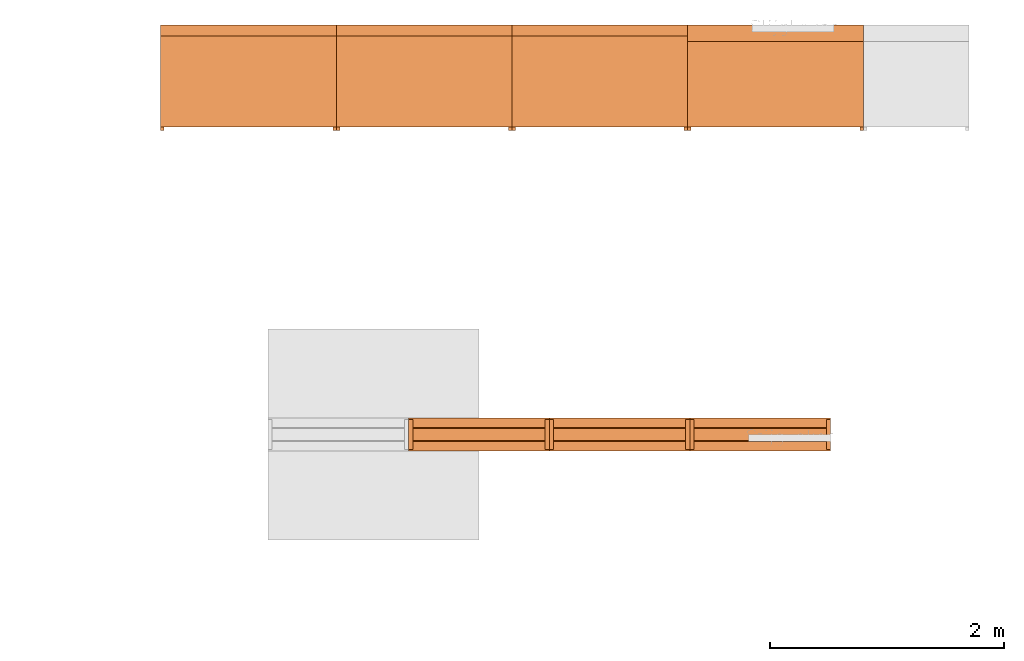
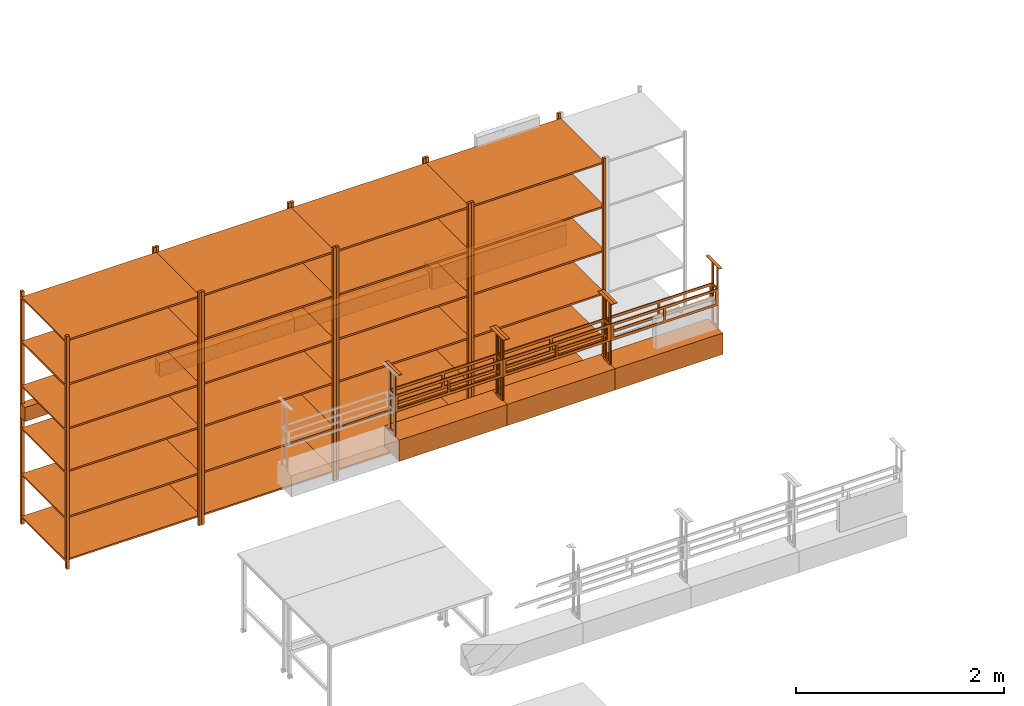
# One storey, part 14 of 32: 11 proxies.
"""IFC2X3 building model written with IfcOpenShell, lengths in metres."""

import ifcopenshell
import ifcopenshell.guid

model = None  # the IFC model being written
_history = None  # IfcOwnerHistory: only IFC2X3 demands one
_inside = {}  # id of a spatial element -> (the spatial element, [elements in it])
_under = {}  # id of a project, library or spatial element -> (it, [spatial elements below it])
_declared = {}  # id of a project -> (the project, [libraries it declares])
_typed = {}  # id of a type object -> (the type object, [elements of that type])
_made_of = {}  # id of a material, layer set ... -> (it, [elements and type objects made of it])


def new_model(schema):
    """Start an empty IFC model of exactly this schema.

    Asked for "IFC4X3", IfcOpenShell would pick the latest addendum, in which some entities
    have other attributes; the version numbers below select the first issue.
    IFC2X3 requires an IfcOwnerHistory on every rooted entity: one is made here for all.
    """
    global model, _history
    if schema == "IFC4X3":
        model = ifcopenshell.file(schema_version=(4, 3, 0, 0))
    else:
        model = ifcopenshell.file(schema=schema)
    _inside.clear()
    _under.clear()
    _declared.clear()
    _typed.clear()
    _made_of.clear()
    _history = None
    if model.schema == "IFC2X3":
        org = make("IfcOrganization", Name="unknown")
        user = make(
            "IfcPersonAndOrganization",
            ThePerson=make("IfcPerson", FamilyName="unknown"),
            TheOrganization=org,
        )
        app = make(
            "IfcApplication",
            ApplicationDeveloper=org,
            Version="unknown",
            ApplicationFullName="unknown",
            ApplicationIdentifier="unknown",
        )
        _history = make(
            "IfcOwnerHistory",
            OwningUser=user,
            OwningApplication=app,
            ChangeAction="ADDED",
            CreationDate=0,
        )
    return model


def make(cls, **values):
    """One entity of the class cls with the attributes given. An attribute that is None is left unset."""
    return model.create_entity(
        cls, **{name: value for name, value in values.items() if value is not None}
    )


def entity(cls, *values):
    """Any entity or typed value of the class cls, its attributes in the order of the schema. None: left unset."""
    e = model.create_entity(cls)
    for i, value in enumerate(values):
        if value is not None:
            e[i] = value
    return e


def rooted(cls, **values):
    """An entity with a GlobalId (a new one), such as an element, a storey or a relation."""
    return make(cls, GlobalId=ifcopenshell.guid.new(), OwnerHistory=_history, **values)


def si_unit(unit_type, name, prefix=None):
    """IfcSIUnit, for example si_unit("LENGTHUNIT", "METRE", prefix="MILLI")."""
    return make("IfcSIUnit", UnitType=unit_type, Prefix=prefix, Name=name)


def converted_unit(unit_type, name, factor, base, dimensions=None, offset=None):
    """IfcConversionBasedUnit, such as the inch: factor (a typed value) times the base unit."""
    return make(
        "IfcConversionBasedUnit"
        if offset is None
        else "IfcConversionBasedUnitWithOffset",
        ConversionOffset=offset,
        Dimensions=None
        if dimensions is None
        else entity("IfcDimensionalExponents", *dimensions),
        UnitType=unit_type,
        Name=name,
        ConversionFactor=make(
            "IfcMeasureWithUnit", ValueComponent=factor, UnitComponent=base
        ),
    )


def derived_unit(unit_type, elements):
    """IfcDerivedUnit: a product of units, each with its exponent."""
    return make(
        "IfcDerivedUnit",
        Elements=[
            make("IfcDerivedUnitElement", Unit=unit, Exponent=power)
            for unit, power in elements
        ],
        UnitType=unit_type,
    )


def assignment(units):
    """IfcUnitAssignment: the units of a project."""
    return None if units is None else make("IfcUnitAssignment", Units=units)


def point(xyz):
    """IfcCartesianPoint."""
    return None if xyz is None else make("IfcCartesianPoint", Coordinates=xyz)


def direction(xyz):
    """IfcDirection."""
    return None if xyz is None else make("IfcDirection", DirectionRatios=xyz)


def frame(location, z_axis=None, x_axis=None):
    """IfcAxis2Placement3D, a coordinate frame: its origin and axes. An axis left out is left unset."""
    return make(
        "IfcAxis2Placement3D",
        Location=point(location),
        Axis=direction(z_axis),
        RefDirection=direction(x_axis),
    )


def frame_2d(location, x_axis=None):
    """IfcAxis2Placement2D, a coordinate frame in the plane: its origin and x axis."""
    return make(
        "IfcAxis2Placement2D", Location=point(location), RefDirection=direction(x_axis)
    )


def origin():
    """The frame at (0, 0, 0) with its axes left unset."""
    return frame((0.0, 0.0, 0.0))


def origin_2d_with_axis():
    """The frame at (0, 0) in the plane with the x axis (1, 0) written out."""
    return frame_2d((0.0, 0.0), x_axis=(1.0, 0.0))


def place(relative_to, where):
    """IfcLocalPlacement: puts the frame where relative to a parent placement (None: the world)."""
    return make(
        "IfcLocalPlacement", PlacementRelTo=relative_to, RelativePlacement=where
    )


def context(
    kind, dimensions, precision=None, world=None, true_north=None, identifier=None
):
    """IfcGeometricRepresentationContext, for example the 3D "Model" context."""
    return make(
        "IfcGeometricRepresentationContext",
        ContextIdentifier=identifier,
        ContextType=kind,
        CoordinateSpaceDimension=dimensions,
        Precision=precision,
        WorldCoordinateSystem=world,
        TrueNorth=true_north,
    )


def subcontext(parent, identifier, kind, view, scale=None):
    """IfcGeometricRepresentationSubContext, for example "Body" below "Model"."""
    return make(
        "IfcGeometricRepresentationSubContext",
        ContextIdentifier=identifier,
        ContextType=kind,
        ParentContext=parent,
        TargetScale=scale,
        TargetView=view,
    )


def project(units=None, contexts=None):
    """IfcProject with its units and contexts."""
    return rooted(
        "IfcProject",
        Name="project",
        RepresentationContexts=contexts,
        UnitsInContext=assignment(units),
    )


def spatial(cls, under=None, at=None, **own):
    """A site, building, storey or space (cls), placed at a placement, below another one or the project."""
    s = rooted(cls, ObjectPlacement=at, **own)
    if under is not None:
        _under.setdefault(under.id(), (under, []))[1].append(s)
    return s


def profile(cls, at=None, kind="AREA", **sizes):
    """A parametric profile (cls). Its sizes go by their IFC names, for example OverallWidth=200.0."""
    return make(cls, ProfileType=kind, Position=at, **sizes)


def rectangle(**sizes):
    """IfcRectangleProfileDef."""
    return profile("IfcRectangleProfileDef", **sizes)


def extrude(swept, where, along, depth):
    """IfcExtrudedAreaSolid: the profile swept, set in the frame where, extruded along a direction by depth."""
    return make(
        "IfcExtrudedAreaSolid",
        SweptArea=swept,
        Position=where,
        ExtrudedDirection=direction(along),
        Depth=depth,
    )


def faces_of(points, faces, orient=None, outer=None):
    """IfcFace entities. A face is a list of loops; a loop is a list of indices into points, from 0.

    orient and outer hold one flag for each loop. By default every Orientation is true, the
    first loop of a face is its IfcFaceOuterBound and the others are IfcFaceBound.
    """
    made = []
    for i, loops in enumerate(faces):
        bounds = []
        for j, loop in enumerate(loops):
            is_outer = j == 0 if outer is None else outer[i][j]
            bounds.append(
                make(
                    "IfcFaceOuterBound" if is_outer else "IfcFaceBound",
                    Bound=make("IfcPolyLoop", Polygon=[points[k] for k in loop]),
                    Orientation=True if orient is None else orient[i][j],
                )
            )
        made.append(make("IfcFace", Bounds=bounds))
    return made


def faceted_brep(points, faces, orient=None, outer=None, voids=None):
    """IfcFacetedBrep: a solid bounded by flat faces; with voids (closed shells), ...WithVoids."""
    shared = [point(p) for p in points]
    hull = make("IfcClosedShell", CfsFaces=faces_of(shared, faces, orient, outer))
    if voids is None:
        return make("IfcFacetedBrep", Outer=hull)
    return make(
        "IfcFacetedBrepWithVoids",
        Outer=hull,
        Voids=[
            make(cls, CfsFaces=faces_of(shared, fs, o, b)) for cls, fs, o, b in voids
        ],
    )


def shape(context_of_items, identifier, shape_type, items):
    """IfcShapeRepresentation: the items that make up one representation, for example the "Body"."""
    return make(
        "IfcShapeRepresentation",
        ContextOfItems=context_of_items,
        RepresentationIdentifier=identifier,
        RepresentationType=shape_type,
        Items=items,
    )


def source(mapping_origin, context_of_items, identifier, shape_type, items):
    """IfcRepresentationMap: a shape defined once, which mapped items show again and again."""
    return make(
        "IfcRepresentationMap",
        MappingOrigin=mapping_origin,
        MappedRepresentation=shape(context_of_items, identifier, shape_type, items),
    )


def transform(
    local_origin,
    x_axis=None,
    y_axis=None,
    z_axis=None,
    scale=None,
    scale2=None,
    scale3=None,
    uniform=True,
):
    """IfcCartesianTransformationOperator3D, or its non-uniform kind. x_axis, y_axis, z_axis: its Axis1, 2, 3."""
    if uniform:
        return make(
            "IfcCartesianTransformationOperator3D",
            Axis1=direction(x_axis),
            Axis2=direction(y_axis),
            LocalOrigin=point(local_origin),
            Scale=scale,
            Axis3=direction(z_axis),
        )
    return make(
        "IfcCartesianTransformationOperator3DnonUniform",
        Axis1=direction(x_axis),
        Axis2=direction(y_axis),
        LocalOrigin=point(local_origin),
        Scale=scale,
        Axis3=direction(z_axis),
        Scale2=scale2,
        Scale3=scale3,
    )


def mapped(mapping_source, mapping_target):
    """IfcMappedItem: shows the shape of a source again, moved by a transform."""
    return make(
        "IfcMappedItem", MappingSource=mapping_source, MappingTarget=mapping_target
    )


def material(Name=None, Category=None):
    """IfcMaterial."""
    return make("IfcMaterial", Name=Name, Category=Category)


def material_list(materials):
    """IfcMaterialList."""
    return make("IfcMaterialList", Materials=materials)


def made_of(thing, what):
    """Note that an element or type object is made of a material, layer set ...; save() writes the relation."""
    if what is not None:
        _made_of.setdefault(what.id(), (what, []))[1].append(thing)
    return thing


def type_object(cls, material=None, **own):
    """A type object (cls), such as IfcWallType, which elements share."""
    return made_of(rooted(cls, **own), material)


def type_shapes(of_type, sources):
    """Give a type object the sources (RepresentationMaps) that its elements show as mapped items."""
    of_type.RepresentationMaps = sources


def element(
    cls,
    number,
    at=None,
    inside=None,
    cuts=None,
    type_object=None,
    material=None,
    context=None,
    identifier="Body",
    shape_type=None,
    held_by="IfcProductDefinitionShape",
    body=None,
    shapes=None,
    **own,
):
    """One element of the class cls, such as IfcWall. Its Tag is "e" and its number.

    at: its placement. inside: the storey or other place that contains it. cuts: it is an
    opening in that element (IfcRelVoidsElement). A single representation is given by context,
    identifier, shape_type and body (its items); several are given by shapes. held_by: the class
    of the entity that holds the representations. save() writes the other relations.
    """
    e = rooted(cls, Tag="e%d" % number, ObjectPlacement=at, **own)
    if body is not None:
        shapes = [shape(context, identifier, shape_type, body)]
    if shapes is not None:
        e.Representation = make(held_by, Representations=shapes)
    if inside is not None:
        _inside.setdefault(inside.id(), (inside, []))[1].append(e)
    if cuts is not None:
        rooted(
            "IfcRelVoidsElement", RelatingBuildingElement=cuts, RelatedOpeningElement=e
        )
    if type_object is not None:
        _typed.setdefault(type_object.id(), (type_object, []))[1].append(e)
    return made_of(e, material)


def aggregate(whole, parts):
    """IfcRelAggregates: a whole, such as a stair, and the parts it consists of."""
    return rooted("IfcRelAggregates", RelatingObject=whole, RelatedObjects=parts)


def save(model, path):
    """Write the relations noted so far, then the file.

    IfcRelAggregates (storeys below a building ...), IfcRelContainedInSpatialStructure (elements
    in a storey), IfcRelDefinesByType, IfcRelAssociatesMaterial and IfcRelDeclares: one each for
    every whole, place, type object, material and project.
    """
    for whole, parts in _under.values():
        aggregate(whole, parts)
    for where, things in _inside.values():
        rooted(
            "IfcRelContainedInSpatialStructure",
            RelatedElements=things,
            RelatingStructure=where,
        )
    for kind, things in _typed.values():
        rooted("IfcRelDefinesByType", RelatedObjects=things, RelatingType=kind)
    for what, things in _made_of.values():
        rooted("IfcRelAssociatesMaterial", RelatedObjects=things, RelatingMaterial=what)
    for by, libraries in _declared.values():
        rooted("IfcRelDeclares", RelatingContext=by, RelatedDefinitions=libraries)
    model.write(path)


model = new_model("IFC2X3")

# Units and contexts
model_context = context("Model", 3, precision=1e-05, world=origin(), true_north=direction((6.12303176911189e-17, 1.0)))
body_context = subcontext(model_context, "Body", "Model", "MODEL_VIEW")
ifc_project = project(units=[si_unit("LENGTHUNIT", "METRE"), si_unit("AREAUNIT", "SQUARE_METRE"), si_unit("VOLUMEUNIT", "CUBIC_METRE"), converted_unit("PLANEANGLEUNIT", "DEGREE", entity("IfcRatioMeasure", 0.0174532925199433), si_unit("PLANEANGLEUNIT", "RADIAN"), dimensions=[0, 0, 0, 0, 0, 0, 0]), si_unit("MASSUNIT", "GRAM", prefix="KILO"), derived_unit("MASSDENSITYUNIT", [(si_unit("MASSUNIT", "GRAM", prefix="KILO"), 1), (si_unit("LENGTHUNIT", "METRE"), -3)]), derived_unit("MOMENTOFINERTIAUNIT", [(si_unit("LENGTHUNIT", "METRE"), 4)]), si_unit("TIMEUNIT", "SECOND"), si_unit("FREQUENCYUNIT", "HERTZ"), si_unit("THERMODYNAMICTEMPERATUREUNIT", "DEGREE_CELSIUS"), derived_unit("THERMALTRANSMITTANCEUNIT", [(si_unit("MASSUNIT", "GRAM", prefix="KILO"), 1), (si_unit("THERMODYNAMICTEMPERATUREUNIT", "KELVIN"), -1), (si_unit("TIMEUNIT", "SECOND"), -3)]), derived_unit("VOLUMETRICFLOWRATEUNIT", [(si_unit("LENGTHUNIT", "METRE"), 3), (si_unit("TIMEUNIT", "SECOND"), -1)]), si_unit("ELECTRICCURRENTUNIT", "AMPERE"), si_unit("ELECTRICVOLTAGEUNIT", "VOLT"), si_unit("POWERUNIT", "WATT"), si_unit("FORCEUNIT", "NEWTON", prefix="KILO"), si_unit("ILLUMINANCEUNIT", "LUX"), si_unit("LUMINOUSFLUXUNIT", "LUMEN"), si_unit("LUMINOUSINTENSITYUNIT", "CANDELA"), derived_unit("USERDEFINED", [(si_unit("MASSUNIT", "GRAM", prefix="KILO"), -1), (si_unit("LENGTHUNIT", "METRE"), -2), (si_unit("TIMEUNIT", "SECOND"), 3), (si_unit("LUMINOUSFLUXUNIT", "LUMEN"), 1)]), derived_unit("LINEARVELOCITYUNIT", [(si_unit("LENGTHUNIT", "METRE"), 1), (si_unit("TIMEUNIT", "SECOND"), -1)]), si_unit("PRESSUREUNIT", "PASCAL"), derived_unit("USERDEFINED", [(si_unit("LENGTHUNIT", "METRE"), -2), (si_unit("MASSUNIT", "GRAM", prefix="KILO"), 1), (si_unit("TIMEUNIT", "SECOND"), -2)]), derived_unit("LINEARFORCEUNIT", [(si_unit("MASSUNIT", "GRAM", prefix="KILO"), 1), (si_unit("LENGTHUNIT", "METRE"), 1), (si_unit("TIMEUNIT", "SECOND"), -2), (si_unit("LENGTHUNIT", "METRE"), -1)]), derived_unit("PLANARFORCEUNIT", [(si_unit("MASSUNIT", "GRAM", prefix="KILO"), 1), (si_unit("LENGTHUNIT", "METRE"), 1), (si_unit("TIMEUNIT", "SECOND"), -2), (si_unit("LENGTHUNIT", "METRE"), -2)])], contexts=[model_context])

# Site, building, storey
site_placement = place(None, origin())
site = spatial("IfcSite", under=ifc_project, at=site_placement, Name="Default", CompositionType="ELEMENT")
building_placement = place(site_placement, origin())
building = spatial("IfcBuilding", under=site, at=building_placement, CompositionType="ELEMENT")
storey_placement = place(building_placement, origin())
storey = spatial("IfcBuildingStorey", under=building, at=storey_placement, Name="00 EG", CompositionType="ELEMENT", Elevation=0.0)

# Proxies
ifc_material_1 = material(Name="dh_Weiß")
ifc_material_list_1 = material_list([ifc_material_1, ifc_material_1])
building_element_proxy_type_1 = type_object("IfcBuildingElementProxyType", Name="dh_Doppel_ MEK:DMEK 120", PredefinedType="NOTDEFINED", material=ifc_material_list_1)
shared_shape_1 = source(origin(), body_context, "Body", "Brep", [
    faceted_brep([(0.0100000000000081, 0.2, 1.00500000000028), (0.0100000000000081, 0.0800000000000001, 1.00500000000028), (0.0100000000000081, 0.0800000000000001, 0.727500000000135), (0.0100000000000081, 0.0899999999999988, 0.727500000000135), (0.0100000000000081, 0.0899999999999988, 0.527500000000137), (0.0100000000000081, 0.0800000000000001, 0.527500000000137), (0.0100000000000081, 0.0800000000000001, 0.249999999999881), (0.0100000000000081, 0.2, 0.249999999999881), (0.0100000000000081, 0.2, 0.527500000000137), (0.0100000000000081, 0.189999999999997, 0.527500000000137), (0.0100000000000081, 0.189999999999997, 0.727500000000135), (0.0100000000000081, 0.2, 0.727500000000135), (0.0100000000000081, 0.175, 0.975000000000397), (0.0100000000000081, 0.175, 0.727500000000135), (0.0100000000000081, 0.105, 0.727500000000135), (0.0100000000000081, 0.105, 0.975000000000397), (0.0100000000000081, 0.175, 0.527500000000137), (0.0100000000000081, 0.175, 0.279999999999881), (0.0100000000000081, 0.105, 0.27999999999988), (0.0100000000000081, 0.105, 0.527500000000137), (0.0100000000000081, 0.175000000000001, 0.697500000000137), (0.0100000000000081, 0.175000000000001, 0.557500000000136), (0.0100000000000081, 0.105000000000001, 0.557500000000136), (0.0100000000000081, 0.105000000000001, 0.697500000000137), (0.0, 0.2, 1.00500000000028), (0.0, 0.2, 0.249999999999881), (0.0, 0.0800000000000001, 0.249999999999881), (0.0, 0.0800000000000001, 1.00500000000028), (0.0, 0.175, 0.975000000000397), (0.0, 0.105, 0.975000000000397), (0.0, 0.105, 0.727500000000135), (0.0, 0.175, 0.727500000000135), (0.0, 0.175, 0.527500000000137), (0.0, 0.105, 0.527500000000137), (0.0, 0.105, 0.27999999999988), (0.0, 0.175, 0.279999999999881), (0.0, 0.175000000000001, 0.697500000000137), (0.0, 0.105000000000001, 0.697500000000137), (0.0, 0.105000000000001, 0.557500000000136), (0.0, 0.175000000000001, 0.557500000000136), (1.19000000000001, 0.0800000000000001, 0.527500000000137), (1.19000000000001, 0.0800000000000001, 0.249999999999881), (1.20000000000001, 0.0800000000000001, 0.249999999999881), (1.20000000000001, 0.0800000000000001, 1.00500000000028), (1.19000000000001, 0.0800000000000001, 1.00500000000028), (1.19000000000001, 0.0800000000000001, 0.727500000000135), (0.61250000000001, 0.0800000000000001, 0.697500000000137), (1.16500000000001, 0.0800000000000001, 0.697500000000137), (1.16500000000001, 0.0800000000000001, 0.557500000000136), (0.61250000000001, 0.0800000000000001, 0.557500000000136), (0.0350000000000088, 0.0800000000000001, 0.697500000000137), (0.587500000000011, 0.0800000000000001, 0.697500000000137), (0.587500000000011, 0.0800000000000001, 0.557500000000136), (0.0350000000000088, 0.0800000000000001, 0.557500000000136), (1.19000000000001, 0.2, 0.727500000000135), (1.19000000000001, 0.2, 1.00500000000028), (1.20000000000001, 0.2, 1.00500000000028), (1.20000000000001, 0.2, 0.249999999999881), (1.19000000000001, 0.2, 0.249999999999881), (1.19000000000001, 0.2, 0.527500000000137), (0.0350000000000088, 0.2, 0.697500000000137), (0.0350000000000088, 0.2, 0.557500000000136), (0.587500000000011, 0.2, 0.557500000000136), (0.587500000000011, 0.2, 0.697500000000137), (0.61250000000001, 0.2, 0.697500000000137), (0.61250000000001, 0.2, 0.557500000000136), (1.16500000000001, 0.2, 0.557500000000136), (1.16500000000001, 0.2, 0.697500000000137), (1.19000000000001, 0.0899999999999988, 0.727500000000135), (1.19000000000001, 0.0899999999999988, 0.527500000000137), (0.61250000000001, 0.0899999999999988, 0.697500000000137), (0.61250000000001, 0.0899999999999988, 0.557500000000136), (1.16500000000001, 0.0899999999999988, 0.557500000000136), (1.16500000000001, 0.0899999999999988, 0.697500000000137), (0.0350000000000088, 0.0899999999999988, 0.697500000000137), (0.0350000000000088, 0.0899999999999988, 0.557500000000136), (0.587500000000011, 0.0899999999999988, 0.557500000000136), (0.587500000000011, 0.0899999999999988, 0.697500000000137), (1.19000000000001, 0.189999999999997, 0.527500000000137), (1.19000000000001, 0.189999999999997, 0.727500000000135), (0.0350000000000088, 0.189999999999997, 0.697500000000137), (0.587500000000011, 0.189999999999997, 0.697500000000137), (0.587500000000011, 0.189999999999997, 0.557500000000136), (0.0350000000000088, 0.189999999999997, 0.557500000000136), (0.61250000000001, 0.189999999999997, 0.697500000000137), (1.16500000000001, 0.189999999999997, 0.697500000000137), (1.16500000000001, 0.189999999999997, 0.557500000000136), (0.61250000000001, 0.189999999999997, 0.557500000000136), (1.20000000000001, 0.175, 0.975000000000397), (1.20000000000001, 0.175, 0.727500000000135), (1.20000000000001, 0.105, 0.727500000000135), (1.20000000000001, 0.105, 0.975000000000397), (1.20000000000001, 0.175000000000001, 0.697500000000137), (1.20000000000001, 0.175000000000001, 0.557500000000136), (1.20000000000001, 0.105000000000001, 0.557500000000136), (1.20000000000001, 0.105000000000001, 0.697500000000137), (1.20000000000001, 0.105, 0.27999999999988), (1.20000000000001, 0.105, 0.527500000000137), (1.20000000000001, 0.175, 0.527500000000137), (1.20000000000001, 0.175, 0.279999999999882), (1.19000000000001, 0.175, 0.975000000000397), (1.19000000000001, 0.105, 0.975000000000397), (1.19000000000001, 0.105, 0.727500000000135), (1.19000000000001, 0.175, 0.727500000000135), (1.19000000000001, 0.175000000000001, 0.697500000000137), (1.19000000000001, 0.105000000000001, 0.697500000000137), (1.19000000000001, 0.105000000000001, 0.557500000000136), (1.19000000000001, 0.175000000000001, 0.557500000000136), (1.19000000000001, 0.105, 0.27999999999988), (1.19000000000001, 0.175, 0.279999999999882), (1.19000000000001, 0.175, 0.527500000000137), (1.19000000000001, 0.105, 0.527500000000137)], [[[0, 1, 2, 3, 4, 5, 6, 7, 8, 9, 10, 11], [12, 13, 14, 15], [16, 17, 18, 19], [20, 21, 22, 23]], [[24, 25, 26, 27], [28, 29, 30, 31], [32, 33, 34, 35], [36, 37, 38, 39]], [[1, 0, 24, 27]], [[27, 26, 6, 5, 40, 41, 42, 43, 44, 45, 2, 1], [46, 47, 48, 49], [50, 51, 52, 53]], [[7, 6, 26, 25]], [[25, 24, 0, 11, 54, 55, 56, 57, 58, 59, 8, 7], [60, 61, 62, 63], [64, 65, 66, 67]], [[13, 12, 28, 31]], [[14, 13, 31, 30]], [[15, 14, 30, 29]], [[12, 15, 29, 28]], [[17, 16, 32, 35]], [[18, 17, 35, 34]], [[19, 18, 34, 33]], [[16, 19, 33, 32]], [[21, 20, 36, 39]], [[22, 21, 39, 38]], [[23, 22, 38, 37]], [[20, 23, 37, 36]], [[3, 68, 69, 4], [70, 71, 72, 73], [74, 75, 76, 77]], [[40, 5, 4, 69]], [[2, 45, 68, 3]], [[47, 46, 70, 73]], [[48, 47, 73, 72]], [[49, 48, 72, 71]], [[46, 49, 71, 70]], [[51, 50, 74, 77]], [[52, 51, 77, 76]], [[53, 52, 76, 75]], [[50, 53, 75, 74]], [[9, 78, 79, 10], [80, 81, 82, 83], [84, 85, 86, 87]], [[78, 9, 8, 59]], [[10, 79, 54, 11]], [[81, 80, 60, 63]], [[82, 81, 63, 62]], [[83, 82, 62, 61]], [[80, 83, 61, 60]], [[85, 84, 64, 67]], [[86, 85, 67, 66]], [[87, 86, 66, 65]], [[84, 87, 65, 64]], [[42, 57, 56, 43], [88, 89, 90, 91], [92, 93, 94, 95], [96, 97, 98, 99]], [[44, 55, 54, 79, 78, 59, 58, 41, 40, 69, 68, 45], [100, 101, 102, 103], [104, 105, 106, 107], [108, 109, 110, 111]], [[57, 42, 41, 58]], [[43, 56, 55, 44]], [[89, 88, 100, 103]], [[90, 89, 103, 102]], [[91, 90, 102, 101]], [[88, 91, 101, 100]], [[93, 92, 104, 107]], [[94, 93, 107, 106]], [[95, 94, 106, 105]], [[92, 95, 105, 104]], [[97, 96, 108, 111]], [[98, 97, 111, 110]], [[99, 98, 110, 109]], [[96, 99, 109, 108]]]),
    faceted_brep([(1.165, 0.00999999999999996, 1.01000000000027), (1.2, 0.00999999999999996, 1.01000000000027), (1.2, 0.27, 1.01000000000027), (1.165, 0.27, 1.01000000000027), (1.165, 0.00999999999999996, 1.00500000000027), (1.2, 0.00999999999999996, 1.00500000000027), (1.2, 0.27, 1.00500000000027), (1.165, 0.27, 1.00500000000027)], [[[0, 1, 2, 3]], [[1, 0, 4, 5]], [[2, 1, 5, 6]], [[3, 2, 6, 7]], [[0, 3, 7, 4]], [[4, 7, 6, 5]]]),
    faceted_brep([(0.0349999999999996, 0.270000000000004, 1.00500000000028), (0.0349999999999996, 0.0100000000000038, 1.00500000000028), (0.0, 0.0100000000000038, 1.00500000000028), (0.0, 0.270000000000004, 1.00500000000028), (0.0, 0.270000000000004, 1.01000000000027), (0.0349999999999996, 0.270000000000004, 1.01000000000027), (0.0, 0.0100000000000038, 1.01000000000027), (0.0349999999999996, 0.0100000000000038, 1.01000000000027)], [[[0, 1, 2, 3]], [[4, 5, 0, 3]], [[6, 4, 3, 2]], [[7, 6, 2, 1]], [[5, 7, 1, 0]], [[5, 4, 6, 7]]]),
    faceted_brep([(0.0, 0.2, 0.249999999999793), (0.0100000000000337, 0.2, 0.249999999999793), (1.19000000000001, 0.2, 0.249999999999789), (1.2, 0.2, 0.249999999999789), (1.2, 0.28, 0.249999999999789), (0.0, 0.28, 0.249999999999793), (0.0, 0.2, 0.244999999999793), (0.0, 0.28, 0.244999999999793), (1.2, 0.28, 0.244999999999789), (1.2, 0.2, 0.244999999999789), (1.19000000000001, 0.2, 0.244999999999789), (0.0100000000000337, 0.2, 0.244999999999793)], [[[0, 1, 2, 3, 4, 5]], [[6, 7, 8, 9, 10, 11]], [[0, 5, 7, 6]], [[5, 4, 8, 7]], [[4, 3, 9, 8]], [[3, 2, 10, 9]], [[2, 1, 11, 10]], [[1, 0, 6, 11]]]),
    faceted_brep([(1.20000000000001, 0.280000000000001, 0.245000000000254), (1.20000000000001, 0.200000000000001, 0.245000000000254), (1.20000000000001, 0.200000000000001, 0.00500000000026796), (1.20000000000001, 0.280000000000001, 0.00500000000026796), (0.0, 0.280000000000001, 0.245000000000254), (0.0, 0.280000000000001, 0.00500000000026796), (0.0, 0.200000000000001, 0.00500000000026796), (0.0, 0.200000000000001, 0.245000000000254)], [[[0, 1, 2, 3]], [[4, 5, 6, 7]], [[0, 3, 5, 4]], [[3, 2, 6, 5]], [[2, 1, 7, 6]], [[1, 0, 4, 7]]]),
    faceted_brep([(1.20000000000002, 0.08, 0.249999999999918), (1.20000000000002, 0.2, 0.249999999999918), (1.19000000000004, 0.2, 0.249999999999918), (1.19000000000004, 0.08, 0.249999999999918), (1.20000000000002, 0.08, 0.00499999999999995), (1.19000000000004, 0.08, 0.00499999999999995), (1.19000000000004, 0.2, 0.00499999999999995), (1.20000000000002, 0.2, 0.00499999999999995)], [[[0, 1, 2, 3]], [[4, 5, 6, 7]], [[1, 0, 4, 7]], [[2, 1, 7, 6]], [[3, 2, 6, 5]], [[0, 3, 5, 4]]]),
    faceted_brep([(0.0100000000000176, 0.2, 0.249999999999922), (0.0100000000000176, 0.08, 0.249999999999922), (0.0100000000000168, 0.08, 0.00500000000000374), (0.0100000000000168, 0.2, 0.00500000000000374), (0.0, 0.2, 0.249999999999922), (0.0, 0.2, 0.00500000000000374), (0.0, 0.08, 0.249999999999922), (0.0, 0.08, 0.00500000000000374)], [[[0, 1, 2, 3]], [[4, 0, 3, 5]], [[6, 4, 5, 7]], [[1, 6, 7, 2]], [[2, 7, 5, 3]], [[1, 0, 4, 6]]]),
    faceted_brep([(1.19000000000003, 0.08, 0.249999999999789), (1.19000000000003, 0.2, 0.249999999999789), (0.0100000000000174, 0.2, 0.249999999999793), (0.0100000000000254, 0.08, 0.249999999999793), (1.19000000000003, 0.08, 0.244999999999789), (0.0100000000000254, 0.08, 0.244999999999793), (0.0100000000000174, 0.2, 0.244999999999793), (1.19000000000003, 0.2, 0.244999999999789)], [[[0, 1, 2, 3]], [[4, 5, 6, 7]], [[1, 0, 4, 7]], [[2, 1, 7, 6]], [[3, 2, 6, 5]], [[0, 3, 5, 4]]]),
    faceted_brep([(0.0, 0.0, 0.0), (0.0, 0.0799999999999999, 0.0), (0.0, 0.28, 0.0), (1.20000000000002, 0.28, 0.0), (1.20000000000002, 0.0799999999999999, 0.0), (1.20000000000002, 0.0, 0.0), (0.0, 0.0, 0.00500000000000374), (1.20000000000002, 0.0, 0.00499999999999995), (1.20000000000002, 0.0799999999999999, 0.00499999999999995), (1.20000000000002, 0.28, 0.00499999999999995), (0.0, 0.28, 0.00500000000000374), (0.0, 0.0799999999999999, 0.00500000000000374)], [[[0, 1, 2, 3, 4, 5]], [[6, 7, 8, 9, 10, 11]], [[7, 6, 0, 5]], [[8, 7, 5, 4]], [[9, 8, 4, 3]], [[10, 9, 3, 2]], [[11, 10, 2, 1]], [[6, 11, 1, 0]]]),
    faceted_brep([(0.0, 0.08, 0.249999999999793), (0.0, 0.0, 0.249999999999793), (1.20000000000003, 0.0, 0.249999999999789), (1.20000000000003, 0.08, 0.249999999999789), (1.19000000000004, 0.08, 0.249999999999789), (0.0100000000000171, 0.08, 0.249999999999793), (0.0, 0.08, 0.244999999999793), (0.010000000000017, 0.08, 0.244999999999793), (1.19000000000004, 0.08, 0.244999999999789), (1.20000000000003, 0.08, 0.244999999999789), (1.20000000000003, 0.0, 0.244999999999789), (0.0, 0.0, 0.244999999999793)], [[[0, 1, 2, 3, 4, 5]], [[6, 7, 8, 9, 10, 11]], [[1, 0, 6, 11]], [[2, 1, 11, 10]], [[3, 2, 10, 9]], [[4, 3, 9, 8]], [[5, 4, 8, 7]], [[0, 5, 7, 6]]]),
    faceted_brep([(1.20000000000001, 0.0, 0.245000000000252), (1.20000000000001, 0.0, 0.00500000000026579), (1.20000000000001, 0.08, 0.00500000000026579), (1.20000000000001, 0.08, 0.245000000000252), (0.0, 0.0, 0.245000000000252), (0.0, 0.08, 0.245000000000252), (0.0, 0.08, 0.00500000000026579), (0.0, 0.0, 0.00500000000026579)], [[[0, 1, 2, 3]], [[4, 5, 6, 7]], [[1, 0, 4, 7]], [[2, 1, 7, 6]], [[3, 2, 6, 5]], [[0, 3, 5, 4]]]),
])
type_shapes(building_element_proxy_type_1, [shared_shape_1])
for number, where, name in (
    (1, (12.2679999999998, 20.6070749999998, 2.18999999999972), "dh_Doppel_ MEK:DMEK 120"),
    (2, (13.4679999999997, 20.6070749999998, 2.18999999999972), "dh_Doppel_ MEK:DMEK 120"),
    (3, (14.6679999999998, 20.6070749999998, 2.18999999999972), "dh_Doppel_ MEK:DMEK 120"),
):
    element("IfcBuildingElementProxy", number, at=place(storey_placement, frame(where)), inside=storey, type_object=building_element_proxy_type_1, material=ifc_material_1, Name=name, ObjectType="dh_Doppel_ MEK:DMEK 120", context=body_context, shape_type="MappedRepresentation", body=[
        mapped(shared_shape_1, transform((0.0, 0.0, 0.0), scale=1.0)),
    ])
ifc_material_2 = material(Name="dh_EZ blau")
ifc_material_list_2 = material_list([ifc_material_2, ifc_material_1])
ifc_material_3 = material(Name="dh_Blau")
ifc_material_list_3 = material_list([ifc_material_1, ifc_material_3, ifc_material_2])
building_element_proxy_type_2 = type_object("IfcBuildingElementProxyType", Name="dh_Einzel_ MEK:MEK 150", PredefinedType="NOTDEFINED", material=ifc_material_list_3)
shared_shape_2 = source(origin(), body_context, "Body", "SweptSolid", [
    extrude(rectangle(XDim=0.06, YDim=0.0299999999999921, at=origin_2d_with_axis()), frame((0.885000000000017, 0.33, 1.25499999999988), z_axis=(0.0, 0.0, 1.0), x_axis=(0.0, 1.0, 0.0)), (0.0, 0.0, 1.0), 0.240000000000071),
    extrude(rectangle(XDim=0.06, YDim=0.0299999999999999, at=origin_2d_with_axis()), frame((-0.584999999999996, 0.33, 1.25499999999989), z_axis=(0.0, 0.0, 1.0), x_axis=(0.0, 1.0, 0.0)), (0.0, 0.0, 1.0), 0.240000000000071),
    extrude(rectangle(XDim=0.06, YDim=1.50000000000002, at=origin_2d_with_axis()), frame((0.150000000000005, 0.33, 1.49499999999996), z_axis=(0.0, 0.0, 1.0), x_axis=(0.0, 1.0, 0.0)), (0.0, 0.0, 1.0), 0.00499999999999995),
    extrude(rectangle(XDim=1.50000000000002, YDim=0.14, at=frame_2d((-2.4980018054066e-15, -0.00333333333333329), x_axis=(1.0, 0.0))), frame((0.150000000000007, 0.293333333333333, 1.24999999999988)), (0.0, 0.0, 1.0), 0.00499999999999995),
    extrude(rectangle(XDim=0.08, YDim=1.50000000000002, at=frame_2d((0.0133333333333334, 0.0), x_axis=(1.0, 0.0))), frame((0.150000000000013, 0.273333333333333, 1.49499999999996), z_axis=(0.0, 0.0, 1.0), x_axis=(0.0, -1.0, 0.0)), (0.0, 0.0, 1.0), 0.00499999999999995),
    extrude(rectangle(XDim=1.5, YDim=0.08, at=origin_2d_with_axis()), frame((0.15, 0.26, 1.25499999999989), z_axis=(0.0, 0.0, 1.0), x_axis=(-1.0, 0.0, 0.0)), (0.0, 0.0, 1.0), 0.24000000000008),
])
type_shapes(building_element_proxy_type_2, [shared_shape_2])
proxy_1_placement = place(storey_placement, frame((15.25, 23.8839999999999, 0.0)))
element("IfcBuildingElementProxy", 4, at=proxy_1_placement, inside=storey, type_object=building_element_proxy_type_2, material=ifc_material_list_2, Name="dh_Einzel_ MEK:MEK 150", ObjectType="dh_Einzel_ MEK:MEK 150", context=body_context, shape_type="MappedRepresentation", body=[
    mapped(shared_shape_2, transform((0.0, 0.0, 0.0), scale=1.0)),
])
building_element_proxy_type_3 = type_object("IfcBuildingElementProxyType", Name="dh_Einzel_ Elektrokanal:EK 150", PredefinedType="NOTDEFINED", material=ifc_material_1)
shared_shape_3 = source(origin(), body_context, "Body", "SweptSolid", [
    extrude(rectangle(XDim=1.50000000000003, YDim=0.093, at=frame_2d((-1.38777878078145e-15, -1.73472347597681e-17), x_axis=(1.0, 0.0))), frame((0.150000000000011, 0.2535, 1.24999999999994)), (0.0, 0.0, 1.0), 0.00499999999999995),
    extrude(rectangle(XDim=0.093, YDim=1.50000000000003, at=frame_2d((0.0155, -1.27675647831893e-15), x_axis=(1.0, 0.0))), frame((0.15000000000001, 0.269, 1.40999999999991), z_axis=(0.0, 0.0, 1.0), x_axis=(0.0, -1.0, 0.0)), (0.0, 0.0, 1.0), 0.00499999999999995),
    extrude(rectangle(XDim=1.5, YDim=0.093, at=frame_2d((0.0, 1.73472347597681e-17), x_axis=(1.0, 0.0))), frame((0.15, 0.2535, 1.25499999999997), z_axis=(0.0, 0.0, 1.0), x_axis=(-1.0, 0.0, 0.0)), (0.0, 0.0, 1.0), 0.154999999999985),
])
type_shapes(building_element_proxy_type_3, [shared_shape_3])
for number, where in (
    (5, (13.7500000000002, 23.944, 0.0)),
    (6, (12.2500000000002, 23.9439999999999, 0.0)),
    (7, (10.7500000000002, 23.944, 0.0)),
):
    element("IfcBuildingElementProxy", number, at=place(storey_placement, frame(where)), inside=storey, type_object=building_element_proxy_type_3, material=ifc_material_1, Name="dh_Einzel_ Elektrokanal:EK 150", ObjectType="dh_Einzel_ Elektrokanal:EK 150", context=body_context, shape_type="MappedRepresentation", body=[
        mapped(shared_shape_3, transform((0.0, 0.0, 0.0), scale=1.0)),
    ])
ifc_material_4 = material(Name="Aluminium")
ifc_material_5 = material(Name="UHMW, schwarz")
ifc_material_list_4 = material_list([ifc_material_4, ifc_material_5])
ifc_material_list_5 = material_list([ifc_material_5, ifc_material_4])
building_element_proxy_type_4 = type_object("IfcBuildingElementProxyType", Name="dh_Stahlregal:Stahlregal-FB6-150", PredefinedType="NOTDEFINED", material=ifc_material_list_5)
shared_shape_4 = source(origin(), body_context, "Body", "SweptSolid", [
    extrude(rectangle(XDim=0.840000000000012, YDim=1.5, at=origin_2d_with_axis()), frame((0.0, -0.450000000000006, 0.0800000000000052), z_axis=(0.0, 0.0, 1.0), x_axis=(0.0, 1.0, 0.0)), (0.0, 0.0, 1.0), 0.0199999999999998),
    extrude(rectangle(XDim=0.840000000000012, YDim=1.5, at=origin_2d_with_axis()), frame((0.0, -0.450000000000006, 0.580000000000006), z_axis=(0.0, 0.0, 1.0), x_axis=(0.0, 1.0, 0.0)), (0.0, 0.0, 1.0), 0.0199999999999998),
    extrude(rectangle(XDim=0.840000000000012, YDim=1.5, at=origin_2d_with_axis()), frame((0.0, -0.450000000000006, 1.12000000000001), z_axis=(0.0, 0.0, 1.0), x_axis=(0.0, 1.0, 0.0)), (0.0, 0.0, 1.0), 0.0199999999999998),
    extrude(rectangle(XDim=0.840000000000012, YDim=1.5, at=origin_2d_with_axis()), frame((0.0, -0.450000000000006, 1.62000000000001), z_axis=(0.0, 0.0, 1.0), x_axis=(0.0, 1.0, 0.0)), (0.0, 0.0, 1.0), 0.0199999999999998),
    extrude(rectangle(XDim=0.840000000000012, YDim=1.5, at=origin_2d_with_axis()), frame((0.0, -0.450000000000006, 2.14000000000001), z_axis=(0.0, 0.0, 1.0), x_axis=(0.0, 1.0, 0.0)), (0.0, 0.0, 1.0), 0.0199999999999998),
    extrude(rectangle(XDim=0.840000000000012, YDim=1.5, at=origin_2d_with_axis()), frame((0.0, -0.450000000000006, 2.66000000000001), z_axis=(0.0, 0.0, 1.0), x_axis=(0.0, 1.0, 0.0)), (0.0, 0.0, 1.0), 0.0199999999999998),
    extrude(rectangle(XDim=0.0299999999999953, YDim=0.0300000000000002, at=origin_2d_with_axis()), frame((-0.735000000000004, -0.885000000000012, 2.735)), (0.0, 0.0, 1.0), 0.00500000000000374),
    extrude(rectangle(XDim=0.0300000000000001, YDim=0.0300000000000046, at=origin_2d_with_axis()), frame((0.734999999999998, -0.015, 2.735), z_axis=(0.0, 0.0, 1.0), x_axis=(0.0, 1.0, 0.0)), (0.0, 0.0, 1.0), 0.00500000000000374),
    extrude(rectangle(XDim=0.0299999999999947, YDim=0.03, at=frame_2d((-6.76542155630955e-17, 0.0), x_axis=(1.0, 0.0))), frame((-0.735000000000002, -0.015, 2.735)), (0.0, 0.0, 1.0), 0.00500000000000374),
    extrude(rectangle(XDim=0.0300000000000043, YDim=0.0300000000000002, at=origin_2d_with_axis()), frame((0.734999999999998, -0.885000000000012, 2.735)), (0.0, 0.0, 1.0), 0.00500000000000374),
    extrude(rectangle(XDim=0.03, YDim=0.0299999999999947, at=frame_2d((0.0, 6.76542155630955e-17), x_axis=(1.0, 0.0))), frame((-0.735000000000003, -0.015, 0.00499999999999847), z_axis=(0.0, 0.0, 1.0), x_axis=(0.0, -1.0, 0.0)), (0.0, 0.0, 1.0), 2.73),
    extrude(rectangle(XDim=0.0299999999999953, YDim=0.0300000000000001, at=frame_2d((0.0, -6.76542155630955e-17), x_axis=(1.0, 0.0))), frame((-0.735000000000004, -0.885000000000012, 0.00499999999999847)), (0.0, 0.0, 1.0), 2.73),
    extrude(rectangle(XDim=0.0300000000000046, YDim=0.0300000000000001, at=origin_2d_with_axis()), frame((0.734999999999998, -0.015, 0.00499999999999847)), (0.0, 0.0, 1.0), 2.73),
    extrude(rectangle(XDim=0.0300000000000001, YDim=0.0300000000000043, at=frame_2d((-6.76542155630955e-17, 0.0), x_axis=(1.0, 0.0))), frame((0.734999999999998, -0.885000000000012, 0.00499999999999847), z_axis=(0.0, 0.0, 1.0), x_axis=(0.0, 1.0, 0.0)), (0.0, 0.0, 1.0), 2.73),
    extrude(rectangle(XDim=0.0300000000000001, YDim=0.0300000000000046, at=origin_2d_with_axis()), frame((0.734999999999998, -0.015, 0.0), z_axis=(0.0, 0.0, 1.0), x_axis=(0.0, -1.0, 0.0)), (0.0, 0.0, 1.0), 0.005),
    extrude(rectangle(XDim=0.0299999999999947, YDim=0.03, at=frame_2d((6.76542155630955e-17, 0.0), x_axis=(1.0, 0.0))), frame((-0.735000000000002, -0.015, 0.0), z_axis=(0.0, 0.0, 1.0), x_axis=(-1.0, 0.0, 0.0)), (0.0, 0.0, 1.0), 0.005),
    extrude(rectangle(XDim=0.0299999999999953, YDim=0.0300000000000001, at=frame_2d((0.0, 6.76542155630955e-17), x_axis=(1.0, 0.0))), frame((-0.735000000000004, -0.885000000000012, 0.0), z_axis=(0.0, 0.0, 1.0), x_axis=(-1.0, 0.0, 0.0)), (0.0, 0.0, 1.0), 0.005),
    extrude(rectangle(XDim=0.0300000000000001, YDim=0.0300000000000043, at=frame_2d((6.76542155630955e-17, 0.0), x_axis=(1.0, 0.0))), frame((0.734999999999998, -0.885000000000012, 0.0), z_axis=(0.0, 0.0, 1.0), x_axis=(0.0, -1.0, 0.0)), (0.0, 0.0, 1.0), 0.005),
])
type_shapes(building_element_proxy_type_4, [shared_shape_4])
proxy_2_placement = place(storey_placement, frame((10.9000000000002, 24.244, 0.0)))
element("IfcBuildingElementProxy", 8, at=proxy_2_placement, inside=storey, type_object=building_element_proxy_type_4, material=ifc_material_list_4, Name="dh_Stahlregal:Stahlregal-FB6-150", ObjectType="dh_Stahlregal:Stahlregal-FB6-150", context=body_context, shape_type="MappedRepresentation", body=[
    mapped(shared_shape_4, transform((0.0, 0.0, 0.0), scale=1.0)),
])
ifc_material_list_6 = material_list([ifc_material_4, ifc_material_5])
proxy_3_placement = place(storey_placement, frame((12.4000000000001, 24.244, 0.0)))
element("IfcBuildingElementProxy", 9, at=proxy_3_placement, inside=storey, type_object=building_element_proxy_type_4, material=ifc_material_list_6, Name="dh_Stahlregal:Stahlregal-FB6-150", ObjectType="dh_Stahlregal:Stahlregal-FB6-150", context=body_context, shape_type="MappedRepresentation", body=[
    mapped(shared_shape_4, transform((0.0, 0.0, 0.0), scale=1.0)),
])
ifc_material_list_7 = material_list([ifc_material_4, ifc_material_5])
proxy_4_placement = place(storey_placement, frame((13.8999999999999, 24.244, 0.0)))
element("IfcBuildingElementProxy", 10, at=proxy_4_placement, inside=storey, type_object=building_element_proxy_type_4, material=ifc_material_list_7, Name="dh_Stahlregal:Stahlregal-FB6-150", ObjectType="dh_Stahlregal:Stahlregal-FB6-150", context=body_context, shape_type="MappedRepresentation", body=[
    mapped(shared_shape_4, transform((0.0, 0.0, 0.0), scale=1.0)),
])
ifc_material_list_8 = material_list([ifc_material_4, ifc_material_5])
proxy_5_placement = place(storey_placement, frame((15.4000000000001, 24.244, 0.0)))
element("IfcBuildingElementProxy", 11, at=proxy_5_placement, inside=storey, type_object=building_element_proxy_type_4, material=ifc_material_list_8, Name="dh_Stahlregal:Stahlregal-FB6-150", ObjectType="dh_Stahlregal:Stahlregal-FB6-150", context=body_context, shape_type="MappedRepresentation", body=[
    mapped(shared_shape_4, transform((0.0, 0.0, 0.0), scale=1.0)),
])

save(model, "model.ifc")
